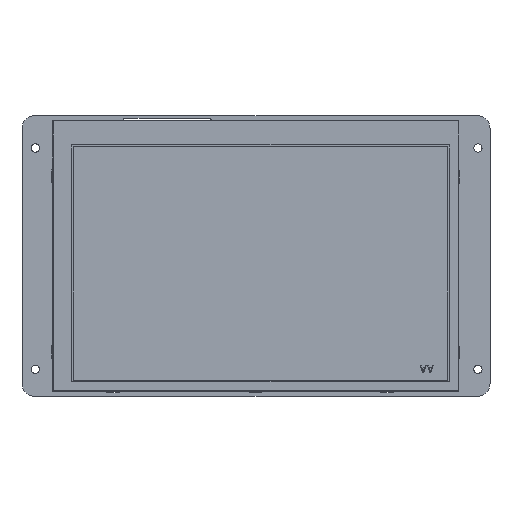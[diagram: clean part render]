
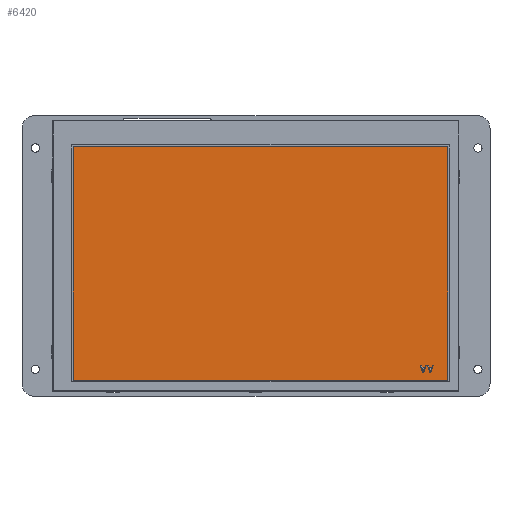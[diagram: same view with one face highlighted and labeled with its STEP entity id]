
A CAD part, front view. The second image highlights one B-rep face of the part: STEP entity #6420.
In plain terms, the highlighted planar face has unit normal (0, -1, 0) as drawn and (0, 1, 0) by its records, which use the part's own axes.
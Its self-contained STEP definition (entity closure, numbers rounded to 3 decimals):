
#5732=DIRECTION('',(0.,0.,1.));
#5733=VECTOR('',#5732,93.4);
#5734=CARTESIAN_POINT('',(-76.53,1.3,-49.7));
#5735=LINE('',#5734,#5733);
#5736=DIRECTION('',(-1.,0.,0.));
#5737=VECTOR('',#5736,149.56);
#5738=CARTESIAN_POINT('',(73.03,1.3,-49.7));
#5739=LINE('',#5738,#5737);
#5740=DIRECTION('',(0.,0.,-1.));
#5741=VECTOR('',#5740,93.4);
#5742=CARTESIAN_POINT('',(73.03,1.3,43.7));
#5743=LINE('',#5742,#5741);
#5744=DIRECTION('',(1.,0.,0.));
#5745=VECTOR('',#5744,149.56);
#5746=CARTESIAN_POINT('',(-76.53,1.3,43.7));
#5747=LINE('',#5746,#5745);
#5748=DIRECTION('',(0.316,0.,0.949));
#5749=VECTOR('',#5748,2.983);
#5750=CARTESIAN_POINT('',(-69.363,1.3,-46.522));
#5751=LINE('',#5750,#5749);
#5752=DIRECTION('',(1.,0.,0.));
#5753=VECTOR('',#5752,0.472);
#5754=CARTESIAN_POINT('',(-69.835,1.3,-46.522));
#5755=LINE('',#5754,#5753);
#5756=DIRECTION('',(0.316,0.,-0.949));
#5757=VECTOR('',#5756,2.983);
#5758=CARTESIAN_POINT('',(-70.778,1.3,-43.692));
#5759=LINE('',#5758,#5757);
#5760=DIRECTION('',(-1.,0.,0.));
#5761=VECTOR('',#5760,0.354);
#5762=CARTESIAN_POINT('',(-70.425,1.3,-43.692));
#5763=LINE('',#5762,#5761);
#5764=DIRECTION('',(-0.31,0.,0.951));
#5765=VECTOR('',#5764,0.76);
#5766=CARTESIAN_POINT('',(-70.189,1.3,-44.414));
#5767=LINE('',#5766,#5765);
#5768=DIRECTION('',(-1.,0.,0.));
#5769=VECTOR('',#5768,1.179);
#5770=CARTESIAN_POINT('',(-69.01,1.3,-44.414));
#5771=LINE('',#5770,#5769);
#5772=DIRECTION('',(-0.31,0.,-0.951));
#5773=VECTOR('',#5772,0.76);
#5774=CARTESIAN_POINT('',(-68.774,1.3,-43.692));
#5775=LINE('',#5774,#5773);
#5776=DIRECTION('',(-1.,0.,0.));
#5777=VECTOR('',#5776,0.354);
#5778=CARTESIAN_POINT('',(-68.42,1.3,-43.692));
#5779=LINE('',#5778,#5777);
#5792=DIRECTION('',(0.316,0.,0.949));
#5793=VECTOR('',#5792,2.983);
#5794=CARTESIAN_POINT('',(-66.533,1.3,-46.522));
#5795=LINE('',#5794,#5793);
#5796=DIRECTION('',(1.,0.,0.));
#5797=VECTOR('',#5796,0.472);
#5798=CARTESIAN_POINT('',(-67.005,1.3,-46.522));
#5799=LINE('',#5798,#5797);
#5800=DIRECTION('',(0.316,0.,-0.949));
#5801=VECTOR('',#5800,2.983);
#5802=CARTESIAN_POINT('',(-67.948,1.3,-43.692));
#5803=LINE('',#5802,#5801);
#5804=DIRECTION('',(-1.,0.,0.));
#5805=VECTOR('',#5804,0.354);
#5806=CARTESIAN_POINT('',(-67.595,1.3,-43.692));
#5807=LINE('',#5806,#5805);
#5808=DIRECTION('',(-0.31,0.,0.951));
#5809=VECTOR('',#5808,0.76);
#5810=CARTESIAN_POINT('',(-67.359,1.3,-44.414));
#5811=LINE('',#5810,#5809);
#5812=DIRECTION('',(-1.,0.,0.));
#5813=VECTOR('',#5812,1.179);
#5814=CARTESIAN_POINT('',(-66.18,1.3,-44.414));
#5815=LINE('',#5814,#5813);
#5816=DIRECTION('',(-0.31,0.,-0.951));
#5817=VECTOR('',#5816,0.76);
#5818=CARTESIAN_POINT('',(-65.944,1.3,-43.692));
#5819=LINE('',#5818,#5817);
#5820=DIRECTION('',(-1.,0.,0.));
#5821=VECTOR('',#5820,0.354);
#5822=CARTESIAN_POINT('',(-65.59,1.3,-43.692));
#5823=LINE('',#5822,#5821);
#5956=CARTESIAN_POINT('',(-76.53,1.3,-49.7));
#5957=CARTESIAN_POINT('',(-76.53,1.3,43.7));
#5958=VERTEX_POINT('',#5956);
#5959=VERTEX_POINT('',#5957);
#5960=CARTESIAN_POINT('',(73.03,1.3,43.7));
#5961=VERTEX_POINT('',#5960);
#5962=CARTESIAN_POINT('',(73.03,1.3,-49.7));
#5963=VERTEX_POINT('',#5962);
#5964=CARTESIAN_POINT('',(-69.363,1.3,-46.522));
#5965=CARTESIAN_POINT('',(-68.42,1.3,-43.692));
#5966=VERTEX_POINT('',#5964);
#5967=VERTEX_POINT('',#5965);
#5968=CARTESIAN_POINT('',(-68.774,1.3,-43.692));
#5969=VERTEX_POINT('',#5968);
#5970=CARTESIAN_POINT('',(-69.01,1.3,-44.414));
#5971=VERTEX_POINT('',#5970);
#5972=CARTESIAN_POINT('',(-70.189,1.3,-44.414));
#5973=VERTEX_POINT('',#5972);
#5974=CARTESIAN_POINT('',(-70.425,1.3,-43.692));
#5975=VERTEX_POINT('',#5974);
#5976=CARTESIAN_POINT('',(-70.778,1.3,-43.692));
#5977=VERTEX_POINT('',#5976);
#5978=CARTESIAN_POINT('',(-69.835,1.3,-46.522));
#5979=VERTEX_POINT('',#5978);
#5986=CARTESIAN_POINT('',(-66.533,1.3,-46.522));
#5987=CARTESIAN_POINT('',(-65.59,1.3,-43.692));
#5988=VERTEX_POINT('',#5986);
#5989=VERTEX_POINT('',#5987);
#5990=CARTESIAN_POINT('',(-65.944,1.3,-43.692));
#5991=VERTEX_POINT('',#5990);
#5992=CARTESIAN_POINT('',(-66.18,1.3,-44.414));
#5993=VERTEX_POINT('',#5992);
#5994=CARTESIAN_POINT('',(-67.359,1.3,-44.414));
#5995=VERTEX_POINT('',#5994);
#5996=CARTESIAN_POINT('',(-67.595,1.3,-43.692));
#5997=VERTEX_POINT('',#5996);
#5998=CARTESIAN_POINT('',(-67.948,1.3,-43.692));
#5999=VERTEX_POINT('',#5998);
#6000=CARTESIAN_POINT('',(-67.005,1.3,-46.522));
#6001=VERTEX_POINT('',#6000);
#6373=CARTESIAN_POINT('',(0.,1.3,0.));
#6374=DIRECTION('',(0.,1.,0.));
#6375=DIRECTION('',(1.,0.,0.));
#6376=AXIS2_PLACEMENT_3D('',#6373,#6374,#6375);
#6377=PLANE('',#6376);
#6378=ORIENTED_EDGE('',*,*,#6325,.F.);
#6379=ORIENTED_EDGE('',*,*,#6340,.F.);
#6380=ORIENTED_EDGE('',*,*,#6354,.F.);
#6381=ORIENTED_EDGE('',*,*,#6367,.F.);
#6382=EDGE_LOOP('',(#6378,#6379,#6380,#6381));
#6383=FACE_OUTER_BOUND('',#6382,.F.);
#6385=ORIENTED_EDGE('',*,*,#6384,.F.);
#6387=ORIENTED_EDGE('',*,*,#6386,.F.);
#6389=ORIENTED_EDGE('',*,*,#6388,.F.);
#6391=ORIENTED_EDGE('',*,*,#6390,.F.);
#6393=ORIENTED_EDGE('',*,*,#6392,.F.);
#6395=ORIENTED_EDGE('',*,*,#6394,.F.);
#6397=ORIENTED_EDGE('',*,*,#6396,.F.);
#6399=ORIENTED_EDGE('',*,*,#6398,.F.);
#6400=EDGE_LOOP('',(#6385,#6387,#6389,#6391,#6393,#6395,#6397,#6399));
#6401=FACE_BOUND('',#6400,.F.);
#6403=ORIENTED_EDGE('',*,*,#6402,.F.);
#6405=ORIENTED_EDGE('',*,*,#6404,.F.);
#6407=ORIENTED_EDGE('',*,*,#6406,.F.);
#6409=ORIENTED_EDGE('',*,*,#6408,.F.);
#6411=ORIENTED_EDGE('',*,*,#6410,.F.);
#6413=ORIENTED_EDGE('',*,*,#6412,.F.);
#6415=ORIENTED_EDGE('',*,*,#6414,.F.);
#6417=ORIENTED_EDGE('',*,*,#6416,.F.);
#6418=EDGE_LOOP('',(#6403,#6405,#6407,#6409,#6411,#6413,#6415,#6417));
#6419=FACE_BOUND('',#6418,.F.);
#6325=EDGE_CURVE('',#5958,#5959,#5735,.T.);
#6340=EDGE_CURVE('',#5963,#5958,#5739,.T.);
#6354=EDGE_CURVE('',#5961,#5963,#5743,.T.);
#6367=EDGE_CURVE('',#5959,#5961,#5747,.T.);
#6384=EDGE_CURVE('',#5966,#5967,#5751,.T.);
#6386=EDGE_CURVE('',#5979,#5966,#5755,.T.);
#6388=EDGE_CURVE('',#5977,#5979,#5759,.T.);
#6390=EDGE_CURVE('',#5975,#5977,#5763,.T.);
#6392=EDGE_CURVE('',#5973,#5975,#5767,.T.);
#6394=EDGE_CURVE('',#5971,#5973,#5771,.T.);
#6396=EDGE_CURVE('',#5969,#5971,#5775,.T.);
#6398=EDGE_CURVE('',#5967,#5969,#5779,.T.);
#6402=EDGE_CURVE('',#5988,#5989,#5795,.T.);
#6404=EDGE_CURVE('',#6001,#5988,#5799,.T.);
#6406=EDGE_CURVE('',#5999,#6001,#5803,.T.);
#6408=EDGE_CURVE('',#5997,#5999,#5807,.T.);
#6410=EDGE_CURVE('',#5995,#5997,#5811,.T.);
#6412=EDGE_CURVE('',#5993,#5995,#5815,.T.);
#6414=EDGE_CURVE('',#5991,#5993,#5819,.T.);
#6416=EDGE_CURVE('',#5989,#5991,#5823,.T.);
#6420=ADVANCED_FACE('',(#6383,#6401,#6419),#6377,.T.);
